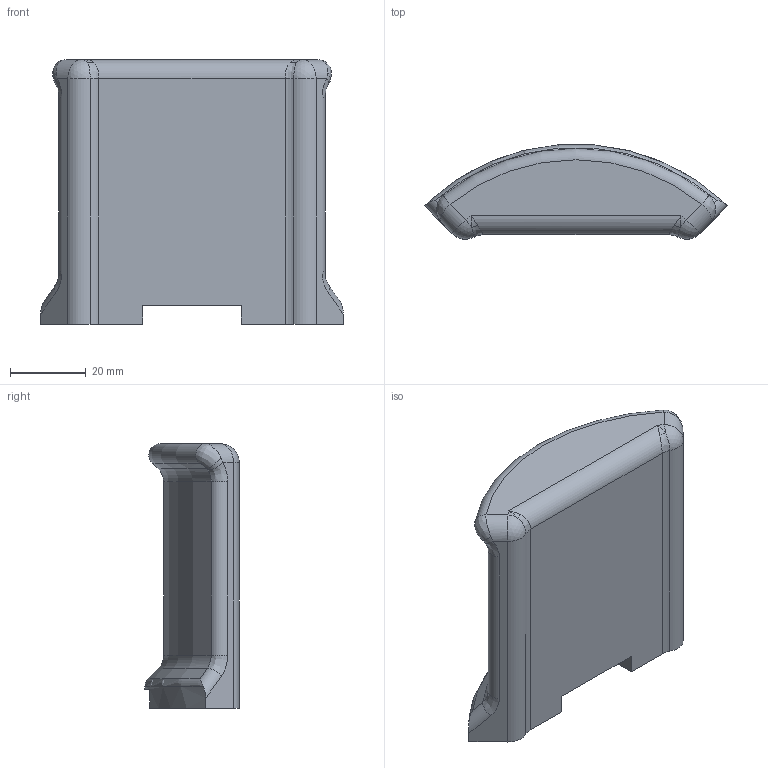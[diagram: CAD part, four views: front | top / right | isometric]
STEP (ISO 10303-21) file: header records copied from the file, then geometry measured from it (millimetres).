
FILE_DESCRIPTION((''),'2;1');
FILE_NAME('HEADPHONE_HOLDER','',(''),(''),'','','');
FILE_SCHEMA(('CONFIG_CONTROL_DESIGN'));
Length unit declared in the file: millimetre
Products named in the file (1): HEADPHONE_HOLDER
Bounding box: 80 x 24.98 x 70 mm (x, y, z)
Volume: 72941.2 mm3; surface area: 14628.8 mm2
Topology: 1 solids, 1 shells, 52 faces, 118 edges, 70 vertices
Faces by surface type: cylinder 15, bspline 12, plane 11, torus 6, cone 6, sphere 2
Entity records: 1984 total; most frequent: CARTESIAN_POINT 863, ORIENTED_EDGE 236, DIRECTION 209, EDGE_CURVE 118, AXIS2_PLACEMENT_3D 85, VERTEX_POINT 70, EDGE_LOOP 54, FACE_OUTER_BOUND 52
